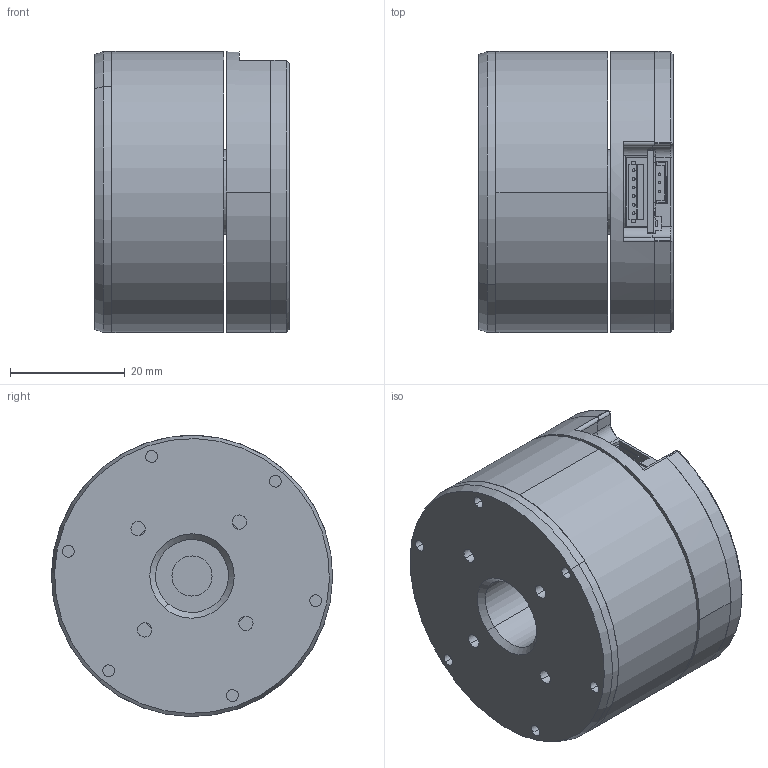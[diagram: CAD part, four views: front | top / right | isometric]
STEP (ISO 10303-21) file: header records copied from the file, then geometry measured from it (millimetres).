
FILE_DESCRIPTION (( 'STEP AP214' ), '1' );
FILE_NAME ('MS5015v2.STEP', '2022-02-21T16:27:52', ( '' ), ( '' ), 'SwSTEP 2.0', 'SolidWorks 2018', '' );
FILE_SCHEMA (( 'AUTOMOTIVE_DESIGN' ));
Length unit declared in the file: millimetre
Products named in the file (2): MS5015v2
Bounding box: 33.9 x 49 x 49 mm (x, y, z)
Surface area: 26716.7 mm2 (no closed solid volume)
Topology: 0 solids, 62 shells, 1214 faces, 3066 edges, 2006 vertices
Faces by surface type: plane 617, cylinder 364, bspline 161, cone 64, torus 6, sphere 2
Entity records: 54229 total; most frequent: CARTESIAN_POINT 11857, ORIENTED_EDGE 6060, DIRECTION 5531, EDGE_CURVE 3050, VERTEX_POINT 2006, AXIS2_PLACEMENT_3D 1880, VECTOR 1771, LINE 1771
